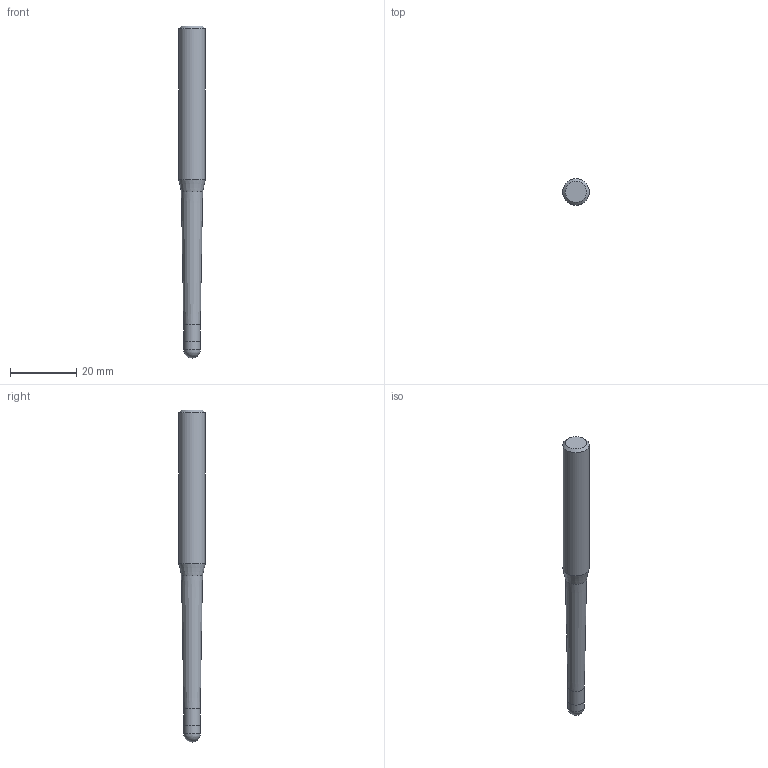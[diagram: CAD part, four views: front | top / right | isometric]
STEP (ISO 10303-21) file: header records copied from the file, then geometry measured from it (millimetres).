
FILE_DESCRIPTION((''),'2;1');
FILE_NAME('C:\Users\nsx150\AppData\Local\Temp\Mastercam 2021\SNAKH10GOD\TEMP.step','2021-10-21T13:33:46',(''),(''),'STEP Write','Mastercam 2021 ... CNC Software, Inc.','');
FILE_SCHEMA(('AUTOMOTIVE_DESIGN'));
Length unit declared in the file: millimetre
Products named in the file (1): None
Bounding box: 8 x 8 x 100 mm (x, y, z)
Volume: 3672.1 mm3; surface area: 2197.8 mm2
Topology: 2 solids, 2 shells, 10 faces, 16 edges, 9 vertices
Faces by surface type: plane 3, cylinder 3, cone 3, sphere 1
Full cylindrical faces by diameter (mm): 4.98 x1, 5 x1, 8 x1
Entity records: 232 total; most frequent: DIRECTION 40, CARTESIAN_POINT 28, AXIS2_PLACEMENT_3D 20, ORIENTED_EDGE 16, EDGE_LOOP 16, STYLED_ITEM 13, ADVANCED_FACE 10, FACE_BOUND 9
